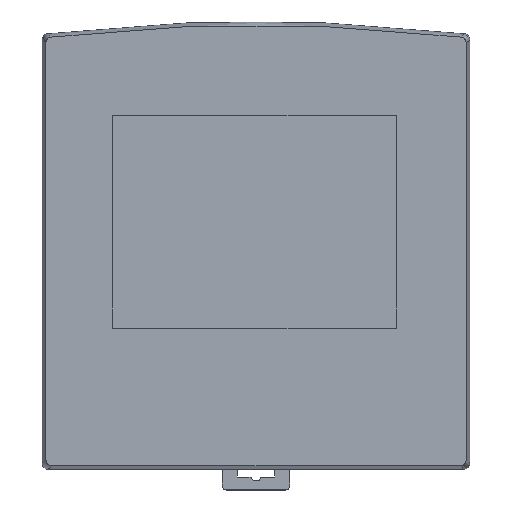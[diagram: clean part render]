
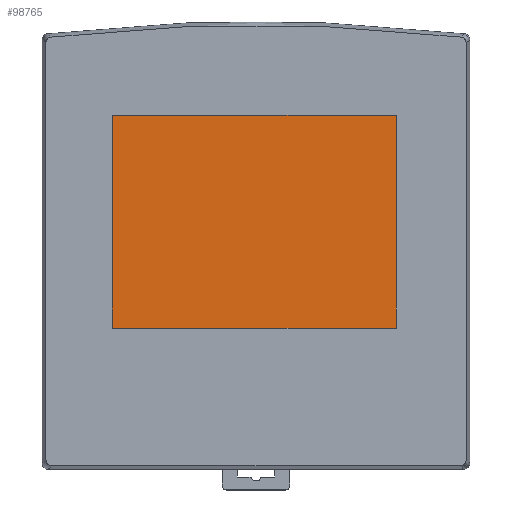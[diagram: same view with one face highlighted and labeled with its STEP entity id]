
A CAD part, top view. The second image highlights one B-rep face of the part: STEP entity #98765.
In plain terms, the highlighted planar face has unit normal (0, 0, 1).
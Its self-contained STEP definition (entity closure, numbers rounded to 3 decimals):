
#9158 = DIRECTION ( 'NONE',  ( 0., 1., 0. ) ) ;
#9159 = CARTESIAN_POINT ( 'NONE',  ( -14.791, -645.009, -24.002 ) ) ;
#9162 = LINE ( 'NONE', #9159, #74202 ) ;
#9163 = DIRECTION ( 'NONE',  ( 1., 0., 0. ) ) ;
#9164 = CARTESIAN_POINT ( 'NONE',  ( -86.791, -699.009, -24.002 ) ) ;
#9165 = LINE ( 'NONE', #9164, #74191 ) ;
#9168 = DIRECTION ( 'NONE',  ( 0., -1., 0. ) ) ;
#9169 = CARTESIAN_POINT ( 'NONE',  ( -86.791, -645.009, -24.002 ) ) ;
#9170 = DIRECTION ( 'NONE',  ( -1., 0., 0. ) ) ;
#9171 = CARTESIAN_POINT ( 'NONE',  ( -86.791, -645.009, -24.002 ) ) ;
#9175 = LINE ( 'NONE', #9171, #74200 ) ;
#9179 = LINE ( 'NONE', #9169, #74196 ) ;
#17191 = EDGE_CURVE ( 'NONE', #101416, #101415, #9175, .T. ) ;
#17192 = EDGE_CURVE ( 'NONE', #101415, #101418, #9179, .T. ) ;
#17193 = EDGE_CURVE ( 'NONE', #101418, #101419, #9165, .T. ) ;
#17194 = EDGE_CURVE ( 'NONE', #101419, #101416, #9162, .T. ) ;
#33961 = ORIENTED_EDGE ( 'NONE', *, *, #17194, .T. ) ;
#33962 = ORIENTED_EDGE ( 'NONE', *, *, #17193, .T. ) ;
#33963 = ORIENTED_EDGE ( 'NONE', *, *, #17192, .T. ) ;
#33964 = ORIENTED_EDGE ( 'NONE', *, *, #17191, .T. ) ;
#47272 = EDGE_LOOP ( 'NONE', ( #33964, #33963, #33962, #33961 ) ) ;
#51773 = CARTESIAN_POINT ( 'NONE',  ( -86.791, -645.009, -24.002 ) ) ;
#51776 = CARTESIAN_POINT ( 'NONE',  ( -14.791, -645.009, -24.002 ) ) ;
#51782 = CARTESIAN_POINT ( 'NONE',  ( -86.791, -699.009, -24.002 ) ) ;
#51785 = CARTESIAN_POINT ( 'NONE',  ( -14.791, -699.009, -24.002 ) ) ;
#67479 = CARTESIAN_POINT ( 'NONE',  ( -89.474, -705.475, -24.002 ) ) ;
#67490 = FACE_OUTER_BOUND ( 'NONE', #47272, .T. ) ;
#67492 = PLANE ( 'NONE',  #89388 ) ;
#67498 = DIRECTION ( 'NONE',  ( 0., 0., 1. ) ) ;
#67500 = DIRECTION ( 'NONE',  ( 1., 0., 0. ) ) ;
#74191 = VECTOR ( 'NONE', #9163, 1000. ) ;
#74196 = VECTOR ( 'NONE', #9168, 1000. ) ;
#74200 = VECTOR ( 'NONE', #9170, 1000. ) ;
#74202 = VECTOR ( 'NONE', #9158, 1000. ) ;
#89388 = AXIS2_PLACEMENT_3D ( 'NONE', #67479, #67498, #67500 ) ;
#98765 = ADVANCED_FACE ( 'NONE', ( #67490 ), #67492, .T. ) ;
#101415 = VERTEX_POINT ( 'NONE', #51773 ) ;
#101416 = VERTEX_POINT ( 'NONE', #51776 ) ;
#101418 = VERTEX_POINT ( 'NONE', #51782 ) ;
#101419 = VERTEX_POINT ( 'NONE', #51785 ) ;
